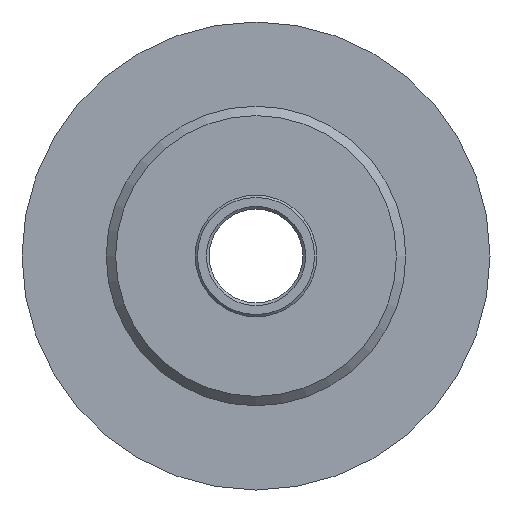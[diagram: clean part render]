
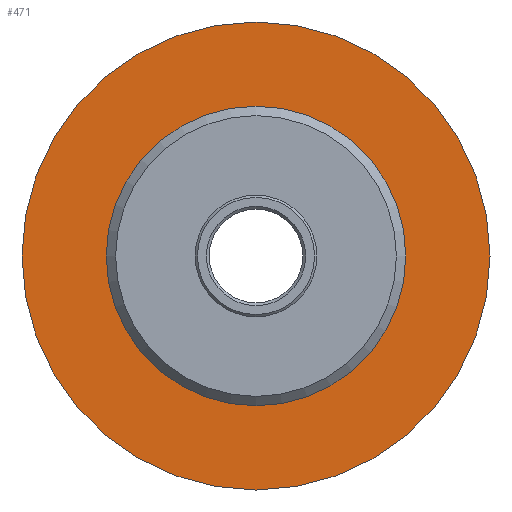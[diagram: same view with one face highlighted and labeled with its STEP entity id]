
A CAD part, left-side view. The second image highlights one B-rep face of the part: STEP entity #471.
In plain terms, the highlighted planar face has unit normal (-1, 0, 0).
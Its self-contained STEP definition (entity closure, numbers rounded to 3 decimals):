
#39=FACE_BOUND('',#89,.T.);
#45=PLANE('',#596);
#62=FACE_OUTER_BOUND('',#88,.T.);
#88=EDGE_LOOP('',(#390,#391));
#89=EDGE_LOOP('',(#392,#393));
#138=CIRCLE('',#553,16.);
#139=CIRCLE('',#554,16.);
#166=CIRCLE('',#589,25.);
#167=CIRCLE('',#590,25.);
#193=VERTEX_POINT('',#826);
#194=VERTEX_POINT('',#827);
#219=VERTEX_POINT('',#893);
#220=VERTEX_POINT('',#895);
#246=EDGE_CURVE('',#193,#194,#138,.T.);
#247=EDGE_CURVE('',#194,#193,#139,.T.);
#280=EDGE_CURVE('',#219,#220,#166,.T.);
#281=EDGE_CURVE('',#220,#219,#167,.T.);
#390=ORIENTED_EDGE('',*,*,#281,.F.);
#391=ORIENTED_EDGE('',*,*,#280,.F.);
#392=ORIENTED_EDGE('',*,*,#246,.T.);
#393=ORIENTED_EDGE('',*,*,#247,.T.);
#471=ADVANCED_FACE('',(#62,#39),#45,.T.);
#553=AXIS2_PLACEMENT_3D('',#828,#648,#649);
#554=AXIS2_PLACEMENT_3D('',#829,#650,#651);
#589=AXIS2_PLACEMENT_3D('',#896,#726,#727);
#590=AXIS2_PLACEMENT_3D('',#897,#728,#729);
#596=AXIS2_PLACEMENT_3D('',#908,#742,#743);
#648=DIRECTION('center_axis',(1.,0.,0.));
#649=DIRECTION('ref_axis',(0.,0.,-1.));
#650=DIRECTION('center_axis',(1.,0.,0.));
#651=DIRECTION('ref_axis',(0.,0.,-1.));
#726=DIRECTION('center_axis',(1.,0.,0.));
#727=DIRECTION('ref_axis',(0.,0.,-1.));
#728=DIRECTION('center_axis',(1.,0.,0.));
#729=DIRECTION('ref_axis',(0.,0.,-1.));
#742=DIRECTION('center_axis',(-1.,0.,0.));
#743=DIRECTION('ref_axis',(0.,0.,1.));
#826=CARTESIAN_POINT('',(-6.,16.,0.));
#827=CARTESIAN_POINT('',(-6.,-16.,0.));
#828=CARTESIAN_POINT('Origin',(-6.,0.,0.));
#829=CARTESIAN_POINT('Origin',(-6.,0.,0.));
#893=CARTESIAN_POINT('',(-6.,-25.,0.));
#895=CARTESIAN_POINT('',(-6.,25.,0.));
#896=CARTESIAN_POINT('Origin',(-6.,0.,0.));
#897=CARTESIAN_POINT('Origin',(-6.,0.,0.));
#908=CARTESIAN_POINT('Origin',(-6.,25.,0.));
